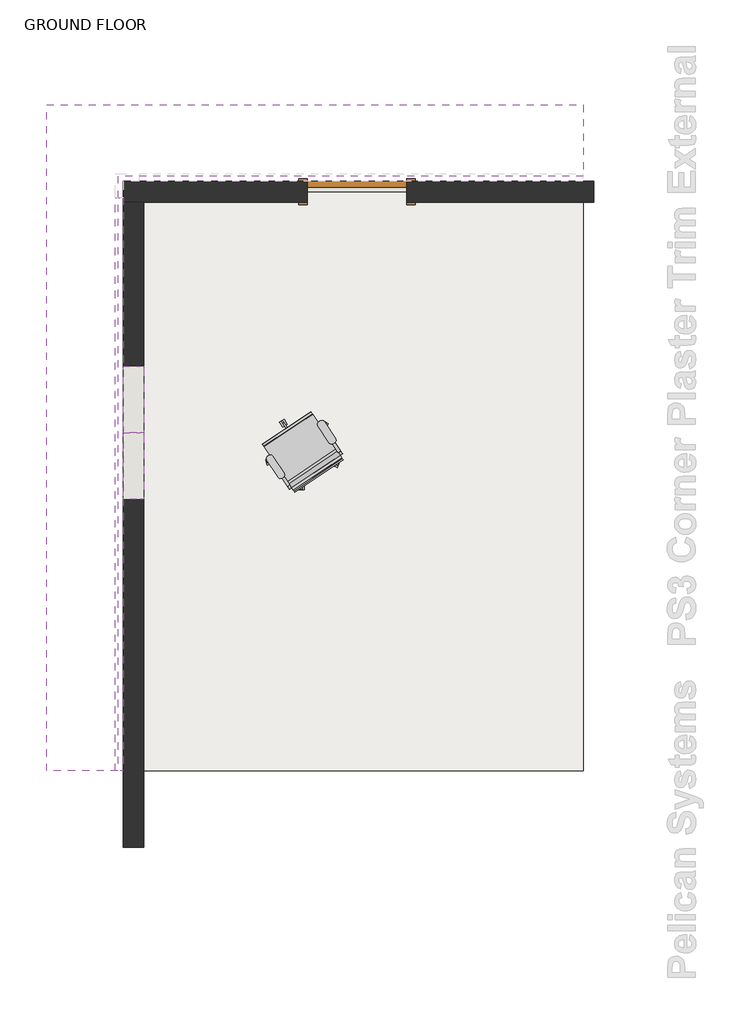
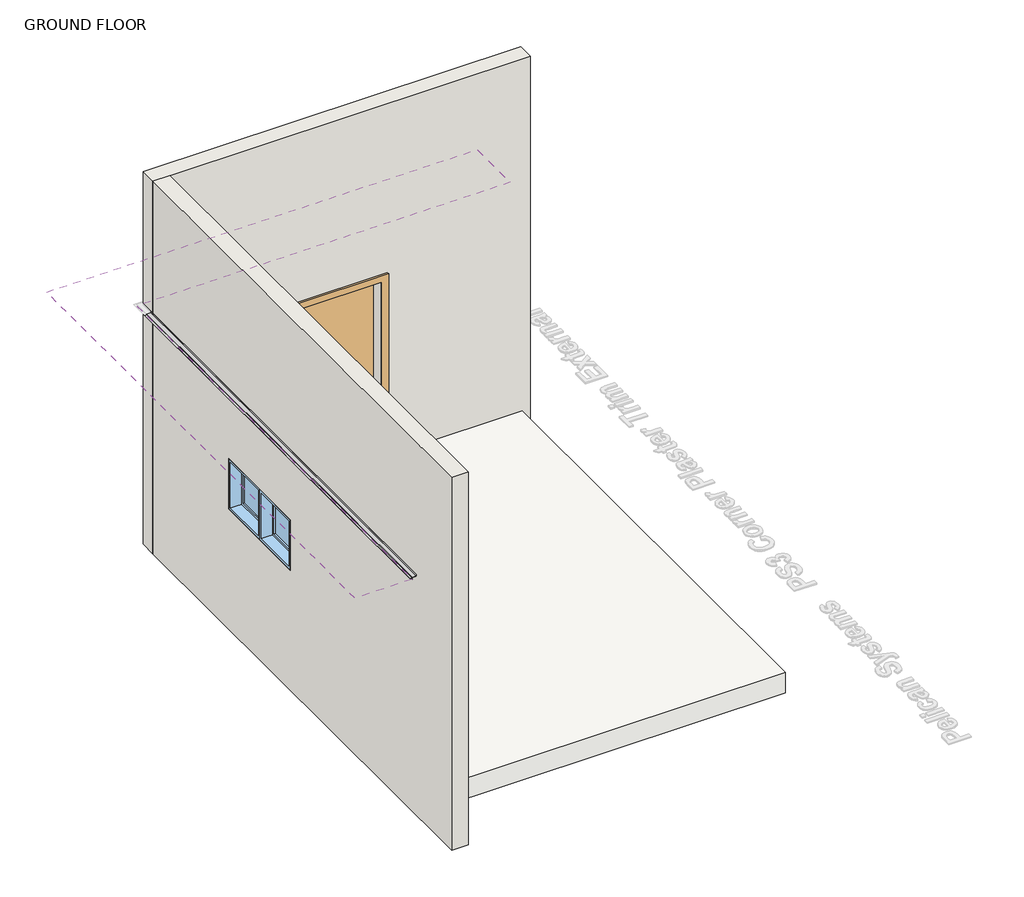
# One storey, part 1 of 2: 2 walls, 2 windows, 1 covering, 1 door, 1 furniture element, 1 proxy, 1 slab.
"""IFC4 building model written with IfcOpenShell, lengths in millimetres."""

from ifc_helpers import new_model, si_unit, frame, origin, place, context, project, spatial, polyline, outline, extrude, faceted_brep, transform, mapped, element, save
from components import m_single_flush_0915_x_2134mm_f5238887, chair_task_arms_chair_task_arms_3b363349, m_fixed_0610_x_0610mm_09852ef8

model = new_model("IFC4")

# Units and contexts
model_context = context("Model", 3, world=origin())
ifc_project = project(units=[si_unit("LENGTHUNIT", "METRE", prefix="MILLI")], contexts=[model_context])

# Site, building, storey
site = spatial("IfcSite", under=ifc_project)
building = spatial("IfcBuilding", under=site)
storey = spatial("IfcBuildingStorey", under=building, Name="GROUND FLOOR", Elevation=0.0)

# Proxy
placement = place(None, origin())
element("IfcBuildingElementProxy", 1, Name="TR04 : Trims Pelican Systems Plaster Trim 45 x 20", ObjectType="TR04 : Trims Pelican Systems Plaster Trim 45 x 20", at=placement, inside=storey, context=model_context, shape_type="SweptSolid", body=[
    extrude(outline(polyline([(2656.0, 120252.7345529), (2656.0, 120251.7345529), (2636.0, 120251.7345529), (2636.0, 120206.7345529), (2627.0, 120206.7345529), (2627.0, 120182.7345529), (2626.0, 120182.7345529), (2626.0, 120206.7345529), (2615.0, 120206.7345529), (2615.0, 120207.7345529), (2635.0, 120207.7345529), (2635.0, 120252.7345529), (2656.0, 120252.7345529)])), frame((0.0, 59912.9193804, 0.0), z_axis=(0.0, 1.0, 0.0), x_axis=(0.0, 0.0, 1.0)), (0.0, 0.0, 1.0), 5245.0),
])

# Covering
element("IfcCovering", 2, ObjectType="_C2.3 - 12mm FLUSHPLASTER CEILING (UNDER CONCRETE SOFFIT)", at=placement, inside=storey, context=model_context, shape_type="SweptSolid", body=[
    extrude(outline(polyline([(124466.7345529, 65353.9193804), (120206.7345529, 65353.9193804), (120206.7345529, 59912.9193804), (119552.7345529, 59912.9193804), (119552.7345529, 66007.9193804), (124466.7345529, 66007.9193804), (124466.7345529, 65353.9193804)])), frame((0.0, 0.0, 2615.0), z_axis=(0.0, 0.0, 1.0), x_axis=(1.0, 0.0, 0.0)), (0.0, 0.0, 1.0), 11.0),
])

# Door
m_single_flush_0915_x_2134mm_shape = m_single_flush_0915_x_2134mm_f5238887(model_context)
element("IfcDoor", 3, ObjectType="M_Single-Flush : 0915 x 2134mm", at=placement, inside=storey, context=model_context, shape_type="MappedRepresentation", body=[
    mapped(m_single_flush_0915_x_2134mm_shape, transform((122394.7345529, 65212.9193804, 0.0), x_axis=(1.0, 0.0, 0.0), y_axis=(0.0, 1.0, 0.0), z_axis=(0.0, 0.0, 1.0))),
])

# Furniture
chair_task_arms_chair_task_arms_shape = chair_task_arms_chair_task_arms_3b363349(model_context)
element("IfcFurniture", 4, ObjectType="Chair-Task Arms : Chair-Task Arms", at=placement, inside=storey, context=model_context, shape_type="MappedRepresentation", body=[
    mapped(chair_task_arms_chair_task_arms_shape, transform((121792.677586, 62736.7323612, 0.0), x_axis=(0.8290375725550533, 0.5591929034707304, 0.0), y_axis=(-0.5591929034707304, 0.8290375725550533, 0.0), z_axis=(0.0, 0.0, 1.0))),
])

# Slab
element("IfcSlab", 5, ObjectType="Generic Floor - 250mm", at=placement, inside=storey, context=model_context, shape_type="Brep", body=[
    faceted_brep([(120366.7345529, 65212.9193804, -250.0), (124466.7345529, 65212.9193804, -250.0), (124466.7345529, 65117.9193804, -250.0), (124466.7345529, 59912.9193804, -250.0), (120366.7345529, 59912.9193804, -250.0), (120366.7345529, 65117.9193804, -250.0), (120366.7345529, 65212.9193804, 0.0), (120366.7345529, 65117.9193804, 0.0), (120366.7345529, 59912.9193804, 0.0), (124466.7345529, 59912.9193804, 0.0), (124466.7345529, 65117.9193804, 0.0), (124466.7345529, 65212.9193804, 0.0), (122852.2345529, 65212.9193804, 0.0), (121937.2345529, 65212.9193804, 0.0)], [[[0, 1, 2, 3, 4, 5]], [[6, 7, 8, 9, 10, 11, 12, 13]], [[1, 0, 6, 13, 12, 11]], [[3, 2, 1, 11, 10, 9]], [[4, 3, 9, 8]], [[0, 5, 4, 8, 7, 6]]]),
])

# Walls
element("IfcWall", 6, ObjectType="190mm MAXI BLOCK- plastered", at=placement, inside=storey, context=model_context, shape_type="Brep", body=[
    faceted_brep([(124561.7345529, 65117.9193804, -250.0), (124561.7345529, 65117.9193804, 4250.0), (120442.7345529, 65117.9193804, 4250.0), (120252.7345529, 65117.9193804, 4250.0), (120252.7345529, 65117.9193804, -250.0), (120366.7345529, 65117.9193804, -250.0), (120366.7345529, 65117.9193804, 0.0), (121937.2345529, 65117.9193804, 0.0), (121937.2345529, 65117.9193804, 2134.0), (122852.2345529, 65117.9193804, 2134.0), (122852.2345529, 65117.9193804, 0.0), (124466.7345529, 65117.9193804, 0.0), (124466.7345529, 65117.9193804, -250.0), (124561.7345529, 65307.9193804, -250.0), (120252.7345529, 65307.9193804, -250.0), (120252.7345529, 65307.9193804, 4250.0), (124561.7345529, 65307.9193804, 4250.0), (121937.2345529, 65307.9193804, 0.0), (122852.2345529, 65307.9193804, 0.0), (122852.2345529, 65307.9193804, 2134.0), (121937.2345529, 65307.9193804, 2134.0), (124466.7345529, 65212.9193804, -250.0), (120366.7345529, 65212.9193804, -250.0), (121937.2345529, 65212.9193804, 0.0), (122852.2345529, 65212.9193804, 0.0), (120366.7345529, 65212.9193804, 0.0), (124466.7345529, 65212.9193804, 0.0)], [[[0, 1, 2, 3, 4, 5, 6, 7, 8, 9, 10, 11, 12]], [[13, 14, 15, 16], [17, 18, 19, 20]], [[14, 13, 0, 12, 21, 22, 5, 4]], [[1, 0, 13, 16]], [[3, 2, 1, 16, 15]], [[18, 17, 23, 24]], [[19, 18, 24, 10, 9]], [[20, 19, 9, 8]], [[17, 20, 8, 7, 23]], [[25, 23, 7, 6]], [[24, 26, 11, 10]], [[25, 22, 21, 26, 24, 23]], [[22, 25, 6, 5]], [[26, 21, 12, 11]], [[4, 3, 15, 14]]]),
])
element("IfcWall", 7, ObjectType="190mm MAXI BLOCK- plastered", at=placement, inside=storey, context=model_context, shape_type="SweptSolid", body=[
    extrude(outline(polyline([(65117.9193804, -250.0), (59212.9193804, -250.0), (59212.9193804, 4250.0), (65117.9193804, 4250.0), (65117.9193804, -250.0)]), holes=[polyline([(62397.9193804, 1200.0), (63617.9193804, 1200.0), (63617.9193804, 1810.0), (62397.9193804, 1810.0), (62397.9193804, 1200.0)])]), frame((120252.7345529, 0.0, 0.0), z_axis=(1.0, 0.0, 0.0), x_axis=(0.0, 1.0, 0.0)), (0.0, 0.0, 1.0), 190.0),
])

# Windows
m_fixed_0610_x_0610mm_shape = m_fixed_0610_x_0610mm_09852ef8(model_context)
element("IfcWindow", 8, ObjectType="M_Fixed : 0610 x 0610mm", at=placement, inside=storey, context=model_context, shape_type="MappedRepresentation", body=[
    mapped(m_fixed_0610_x_0610mm_shape, transform((120334.7345529, 63312.9193804, 285.0), x_axis=(0.0, -1.0, 0.0), y_axis=(1.0, 0.0, 0.0), z_axis=(0.0, 0.0, 1.0))),
])
element("IfcWindow", 9, ObjectType="M_Fixed : 0610 x 0610mm", at=placement, inside=storey, context=model_context, shape_type="MappedRepresentation", body=[
    mapped(m_fixed_0610_x_0610mm_shape, transform((120334.7345529, 62702.9193804, 285.0), x_axis=(0.0, -1.0, 0.0), y_axis=(1.0, 0.0, 0.0), z_axis=(0.0, 0.0, 1.0))),
])

save(model, "model.ifc")
